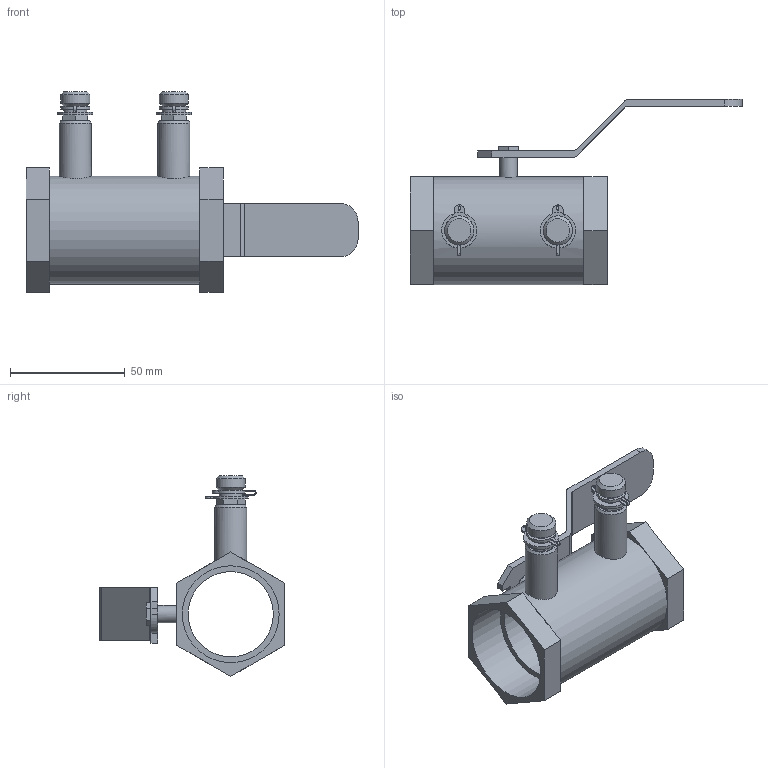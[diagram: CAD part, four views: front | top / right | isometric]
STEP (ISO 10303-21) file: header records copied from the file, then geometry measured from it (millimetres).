
FILE_DESCRIPTION(/* description */ ('VIC BALANCING VALVE SERIES 78BL (THD)','CAx-IF Rec.Pracs.---Representation and Presentation of Product Manufacturing Information (PMI)---4.0---2014-10-13'),/* implementation_level */ '2;1');
FILE_NAME(/* name */ 'C:\Users\kkamble\Desktop\New folder (12)\New folder\step\Victaulic-IPS-TA Balancing Ball Valve Series 78BL (THD)\Victaulic-IPS-TA Balancing Ball Valve Series 78BL (THD)_1.25 (32).stp',/* time_stamp */ '2020-10-13T18:39:58+05:00',/* author */ ('kkamble'),/* organization */ ('Victaulic'),/* preprocessor_version */ 'ST-DEVELOPER v17.2',/* originating_system */ 'Autodesk Inventor 2019',/* authorisation */ '');
FILE_SCHEMA (('AP242_MANAGED_MODEL_BASED_3D_ENGINEERING_MIM_LF { 1 0 10303 442 1 1 4 }'));
Length unit declared in the file: inch
Products named in the file (1): 78BL-01.25
Bounding box: 144.53 x 80.61 x 87.41 mm (x, y, z)
Volume: 66602.7 mm3; surface area: 35962.6 mm2
Topology: 3 solids, 3 shells, 163 faces, 431 edges, 275 vertices
Faces by surface type: plane 120, cylinder 37, cone 6
Full cylindrical faces by diameter (mm): 4.318 x1, 7.62 x1, 12.7 x2, 13.97 x2, 37.084 x1, 42.164 x2, 46.914 x1
Entity records: 5493 total; most frequent: CARTESIAN_POINT 993, DIRECTION 904, ORIENTED_EDGE 866, EDGE_CURVE 433, LINE 304, VECTOR 304, AXIS2_PLACEMENT_3D 300, VERTEX_POINT 277
